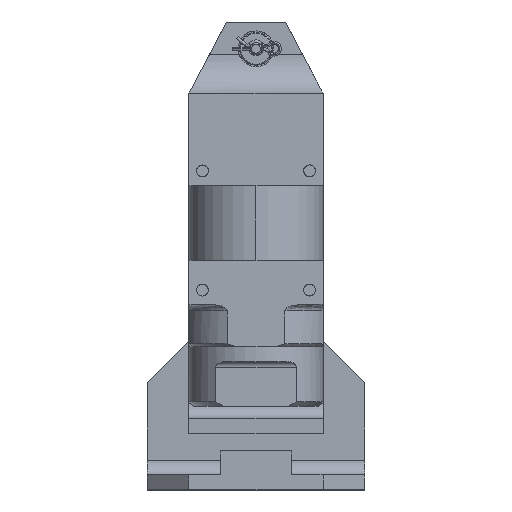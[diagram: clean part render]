
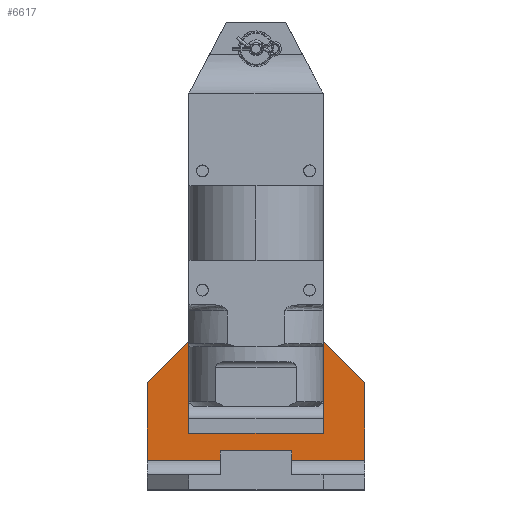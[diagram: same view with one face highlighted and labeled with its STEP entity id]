
A CAD part, top view. The second image highlights one B-rep face of the part: STEP entity #6617.
In plain terms, the highlighted planar face has unit normal (0, 0, 1).
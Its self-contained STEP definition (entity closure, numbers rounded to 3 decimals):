
#287 = VERTEX_POINT ( 'NONE', #8946 ) ;
#436 = FACE_OUTER_BOUND ( 'NONE', #7830, .T. ) ;
#872 = EDGE_CURVE ( 'NONE', #13103, #21609, #18316, .T. ) ;
#968 = FACE_BOUND ( 'NONE', #12225, .T. ) ;
#973 = VECTOR ( 'NONE', #17552, 1000. ) ;
#1576 = CARTESIAN_POINT ( 'NONE',  ( -39.363, -0.478, -15.6 ) ) ;
#1816 = CARTESIAN_POINT ( 'NONE',  ( 18.225, -55.502, -15.6 ) ) ;
#1882 = CIRCLE ( 'NONE', #4507, 3. ) ;
#1896 = ORIENTED_EDGE ( 'NONE', *, *, #11917, .F. ) ;
#2117 = CARTESIAN_POINT ( 'NONE',  ( -54.775, -15.89, -15.6 ) ) ;
#3283 = VECTOR ( 'NONE', #8506, 1000. ) ;
#3349 = CARTESIAN_POINT ( 'NONE',  ( -33.128, -23.862, -15.6 ) ) ;
#3769 = CARTESIAN_POINT ( 'NONE',  ( -54.775, -41.89, -15.6 ) ) ;
#3983 = EDGE_CURVE ( 'NONE', #17198, #10980, #15531, .T. ) ;
#4309 = CARTESIAN_POINT ( 'NONE',  ( -18.275, -41.89, -15.6 ) ) ;
#4373 = VECTOR ( 'NONE', #12921, 1000. ) ;
#4425 = EDGE_CURVE ( 'NONE', #7584, #4538, #18261, .T. ) ;
#4463 = CARTESIAN_POINT ( 'NONE',  ( -27.025, -11.89, -15.6 ) ) ;
#4507 = AXIS2_PLACEMENT_3D ( 'NONE', #9893, #22094, #11633 ) ;
#4538 = VERTEX_POINT ( 'NONE', #3349 ) ;
#4757 = AXIS2_PLACEMENT_3D ( 'NONE', #15761, #15352, #15274 ) ;
#5031 = FACE_BOUND ( 'NONE', #12073, .T. ) ;
#5033 = CARTESIAN_POINT ( 'NONE',  ( 19.637, -17.302, -15.6 ) ) ;
#5085 = DIRECTION ( 'NONE',  ( 0.707, -0.707, 0. ) ) ;
#5086 = EDGE_CURVE ( 'NONE', #8836, #14745, #12989, .T. ) ;
#5189 = CARTESIAN_POINT ( 'NONE',  ( -54.775, -12.278, -15.6 ) ) ;
#5707 = AXIS2_PLACEMENT_3D ( 'NONE', #20815, #19070, #17345 ) ;
#5814 = CARTESIAN_POINT ( 'NONE',  ( -6.275, -23.89, -15.6 ) ) ;
#6153 = ORIENTED_EDGE ( 'NONE', *, *, #21660, .F. ) ;
#6617 = ADVANCED_FACE ( 'NONE', ( #5031, #18980, #968, #436 ), #15453, .T. ) ;
#6621 = DIRECTION ( 'NONE',  ( 0., 1., 0. ) ) ;
#6879 = CARTESIAN_POINT ( 'NONE',  ( 18.225, -41.89, -15.6 ) ) ;
#7135 = LINE ( 'NONE', #4309, #19435 ) ;
#7391 = CIRCLE ( 'NONE', #16566, 4. ) ;
#7506 = EDGE_CURVE ( 'NONE', #21609, #13103, #11544, .T. ) ;
#7562 = DIRECTION ( 'NONE',  ( -1., 0., 0. ) ) ;
#7584 = VERTEX_POINT ( 'NONE', #18729 ) ;
#7609 = ORIENTED_EDGE ( 'NONE', *, *, #3983, .T. ) ;
#7830 = EDGE_LOOP ( 'NONE', ( #9889, #8252, #6153, #19007, #9177, #1896 ) ) ;
#8053 = CARTESIAN_POINT ( 'NONE',  ( -33.525, -11.89, -15.6 ) ) ;
#8071 = EDGE_CURVE ( 'NONE', #15011, #10891, #9636, .T. ) ;
#8252 = ORIENTED_EDGE ( 'NONE', *, *, #17339, .F. ) ;
#8462 = ORIENTED_EDGE ( 'NONE', *, *, #19283, .T. ) ;
#8506 = DIRECTION ( 'NONE',  ( 0.707, 0.707, 0. ) ) ;
#8836 = VERTEX_POINT ( 'NONE', #12008 ) ;
#8946 = CARTESIAN_POINT ( 'NONE',  ( -40.775, -1.89, -15.6 ) ) ;
#9177 = ORIENTED_EDGE ( 'NONE', *, *, #16454, .T. ) ;
#9457 = CARTESIAN_POINT ( 'NONE',  ( -6.275, -23.89, -15.6 ) ) ;
#9604 = DIRECTION ( 'NONE',  ( 0., 0., -1. ) ) ;
#9627 = DIRECTION ( 'NONE',  ( -1., 0., 0. ) ) ;
#9636 = LINE ( 'NONE', #5189, #13730 ) ;
#9682 = LINE ( 'NONE', #1816, #973 ) ;
#9834 = AXIS2_PLACEMENT_3D ( 'NONE', #9457, #9604, #9627 ) ;
#9889 = ORIENTED_EDGE ( 'NONE', *, *, #5086, .F. ) ;
#9893 = CARTESIAN_POINT ( 'NONE',  ( -30.128, -23.862, -15.6 ) ) ;
#10891 = VERTEX_POINT ( 'NONE', #2117 ) ;
#10980 = VERTEX_POINT ( 'NONE', #20041 ) ;
#11544 = CIRCLE ( 'NONE', #20278, 3.25 ) ;
#11633 = DIRECTION ( 'NONE',  ( -1., 0., 0. ) ) ;
#11917 = EDGE_CURVE ( 'NONE', #14745, #14965, #9682, .T. ) ;
#11992 = LINE ( 'NONE', #1576, #3283 ) ;
#12008 = CARTESIAN_POINT ( 'NONE',  ( 4.225, -1.89, -15.6 ) ) ;
#12073 = EDGE_LOOP ( 'NONE', ( #7609, #13470 ) ) ;
#12225 = EDGE_LOOP ( 'NONE', ( #8462, #14292 ) ) ;
#12771 = CARTESIAN_POINT ( 'NONE',  ( -45.287, -1.89, -15.6 ) ) ;
#12921 = DIRECTION ( 'NONE',  ( 1., 0., 0. ) ) ;
#12989 = LINE ( 'NONE', #5033, #21722 ) ;
#13103 = VERTEX_POINT ( 'NONE', #8053 ) ;
#13470 = ORIENTED_EDGE ( 'NONE', *, *, #15542, .T. ) ;
#13648 = ORIENTED_EDGE ( 'NONE', *, *, #7506, .F. ) ;
#13730 = VECTOR ( 'NONE', #6621, 1000. ) ;
#14183 = CARTESIAN_POINT ( 'NONE',  ( -10.275, -23.89, -15.6 ) ) ;
#14292 = ORIENTED_EDGE ( 'NONE', *, *, #4425, .T. ) ;
#14432 = EDGE_LOOP ( 'NONE', ( #15870, #13648 ) ) ;
#14745 = VERTEX_POINT ( 'NONE', #19432 ) ;
#14780 = DIRECTION ( 'NONE',  ( 1., 0., 0. ) ) ;
#14965 = VERTEX_POINT ( 'NONE', #6879 ) ;
#15011 = VERTEX_POINT ( 'NONE', #3769 ) ;
#15274 = DIRECTION ( 'NONE',  ( 1., 0., 0. ) ) ;
#15352 = DIRECTION ( 'NONE',  ( 0., 0., 1. ) ) ;
#15453 = PLANE ( 'NONE',  #4757 ) ;
#15531 = CIRCLE ( 'NONE', #9834, 4. ) ;
#15542 = EDGE_CURVE ( 'NONE', #10980, #17198, #7391, .T. ) ;
#15761 = CARTESIAN_POINT ( 'NONE',  ( -62.087, -45.902, -15.6 ) ) ;
#15870 = ORIENTED_EDGE ( 'NONE', *, *, #872, .F. ) ;
#16454 = EDGE_CURVE ( 'NONE', #15011, #14965, #7135, .T. ) ;
#16458 = AXIS2_PLACEMENT_3D ( 'NONE', #21388, #21429, #21458 ) ;
#16566 = AXIS2_PLACEMENT_3D ( 'NONE', #5814, #18068, #7562 ) ;
#17198 = VERTEX_POINT ( 'NONE', #14183 ) ;
#17339 = EDGE_CURVE ( 'NONE', #287, #8836, #18343, .T. ) ;
#17345 = DIRECTION ( 'NONE',  ( -1., 0., 0. ) ) ;
#17552 = DIRECTION ( 'NONE',  ( 0., -1., 0. ) ) ;
#18068 = DIRECTION ( 'NONE',  ( 0., 0., -1. ) ) ;
#18261 = CIRCLE ( 'NONE', #16458, 3. ) ;
#18316 = CIRCLE ( 'NONE', #5707, 3.25 ) ;
#18343 = LINE ( 'NONE', #12771, #4373 ) ;
#18729 = CARTESIAN_POINT ( 'NONE',  ( -27.128, -23.862, -15.6 ) ) ;
#18980 = FACE_BOUND ( 'NONE', #14432, .T. ) ;
#19007 = ORIENTED_EDGE ( 'NONE', *, *, #8071, .F. ) ;
#19070 = DIRECTION ( 'NONE',  ( 0., 0., 1. ) ) ;
#19283 = EDGE_CURVE ( 'NONE', #4538, #7584, #1882, .T. ) ;
#19432 = CARTESIAN_POINT ( 'NONE',  ( 18.225, -15.89, -15.6 ) ) ;
#19435 = VECTOR ( 'NONE', #14780, 1000. ) ;
#19719 = DIRECTION ( 'NONE',  ( -1., 0., 0. ) ) ;
#19790 = DIRECTION ( 'NONE',  ( 0., 0., 1. ) ) ;
#19817 = CARTESIAN_POINT ( 'NONE',  ( -30.275, -11.89, -15.6 ) ) ;
#20041 = CARTESIAN_POINT ( 'NONE',  ( -2.275, -23.89, -15.6 ) ) ;
#20278 = AXIS2_PLACEMENT_3D ( 'NONE', #19817, #19790, #19719 ) ;
#20815 = CARTESIAN_POINT ( 'NONE',  ( -30.275, -11.89, -15.6 ) ) ;
#21388 = CARTESIAN_POINT ( 'NONE',  ( -30.128, -23.862, -15.6 ) ) ;
#21429 = DIRECTION ( 'NONE',  ( 0., 0., -1. ) ) ;
#21458 = DIRECTION ( 'NONE',  ( -1., 0., 0. ) ) ;
#21609 = VERTEX_POINT ( 'NONE', #4463 ) ;
#21660 = EDGE_CURVE ( 'NONE', #10891, #287, #11992, .T. ) ;
#21722 = VECTOR ( 'NONE', #5085, 1000. ) ;
#22094 = DIRECTION ( 'NONE',  ( 0., 0., -1. ) ) ;
